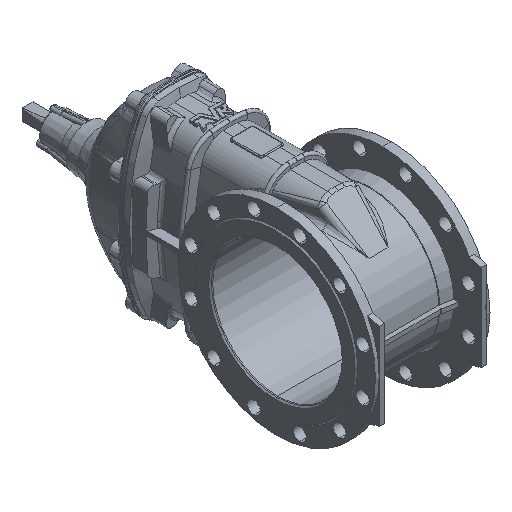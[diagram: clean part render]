
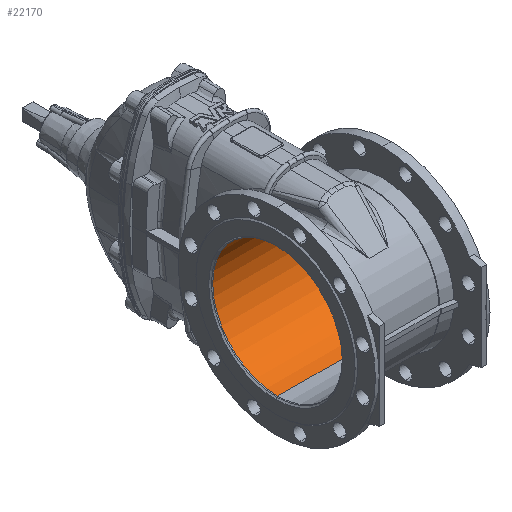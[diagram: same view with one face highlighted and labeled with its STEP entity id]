
A CAD part, isometric view. The second image highlights one B-rep face of the part: STEP entity #22170.
In plain terms, the highlighted cylindrical face has radius 150 mm (diameter 300 mm), a partial arc.
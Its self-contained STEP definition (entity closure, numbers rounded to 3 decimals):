
#55 = CARTESIAN_POINT ( 'NONE',  ( -129.757, 0., -150. ) ) ;
#976 = VERTEX_POINT ( 'NONE', #7720 ) ;
#1402 = CARTESIAN_POINT ( 'NONE',  ( 129.757, 0., 0. ) ) ;
#1759 = DIRECTION ( 'NONE',  ( 0., 0., 1. ) ) ;
#2216 = DIRECTION ( 'NONE',  ( -1., 0., 0. ) ) ;
#2842 = EDGE_LOOP ( 'NONE', ( #34916, #4709, #20783, #25851 ) ) ;
#3037 = EDGE_CURVE ( 'NONE', #11015, #976, #16842, .T. ) ;
#4709 = ORIENTED_EDGE ( 'NONE', *, *, #3037, .T. ) ;
#5721 = VECTOR ( 'NONE', #17099, 1000. ) ;
#7132 = CARTESIAN_POINT ( 'NONE',  ( 129.757, 0., -150. ) ) ;
#7628 = DIRECTION ( 'NONE',  ( 0., 0., 1. ) ) ;
#7720 = CARTESIAN_POINT ( 'NONE',  ( 129.757, 0., 150. ) ) ;
#9485 = VERTEX_POINT ( 'NONE', #55 ) ;
#9797 = CYLINDRICAL_SURFACE ( 'NONE', #35125, 150. ) ;
#10504 = CARTESIAN_POINT ( 'NONE',  ( 135., 0., 0. ) ) ;
#10837 = CARTESIAN_POINT ( 'NONE',  ( -129.757, 0., 150. ) ) ;
#11015 = VERTEX_POINT ( 'NONE', #7132 ) ;
#11556 = VERTEX_POINT ( 'NONE', #10837 ) ;
#11726 = AXIS2_PLACEMENT_3D ( 'NONE', #22596, #13959, #22251 ) ;
#13959 = DIRECTION ( 'NONE',  ( -1., 0., 0. ) ) ;
#16842 = CIRCLE ( 'NONE', #27165, 150. ) ;
#17099 = DIRECTION ( 'NONE',  ( -1., 0., 0. ) ) ;
#18494 = EDGE_CURVE ( 'NONE', #976, #11556, #22024, .T. ) ;
#18961 = CARTESIAN_POINT ( 'NONE',  ( 135., 0., 150. ) ) ;
#20338 = DIRECTION ( 'NONE',  ( 1., 0., 0. ) ) ;
#20783 = ORIENTED_EDGE ( 'NONE', *, *, #18494, .T. ) ;
#22024 = LINE ( 'NONE', #18961, #22916 ) ;
#22170 = ADVANCED_FACE ( 'NONE', ( #32327 ), #9797, .F. ) ;
#22251 = DIRECTION ( 'NONE',  ( 0., 0., 1. ) ) ;
#22596 = CARTESIAN_POINT ( 'NONE',  ( -129.757, 0., 0. ) ) ;
#22916 = VECTOR ( 'NONE', #29970, 1000. ) ;
#24852 = CARTESIAN_POINT ( 'NONE',  ( 135., 0., -150. ) ) ;
#25851 = ORIENTED_EDGE ( 'NONE', *, *, #32709, .T. ) ;
#25970 = EDGE_CURVE ( 'NONE', #11015, #9485, #33322, .T. ) ;
#27165 = AXIS2_PLACEMENT_3D ( 'NONE', #1402, #20338, #1759 ) ;
#29970 = DIRECTION ( 'NONE',  ( -1., 0., 0. ) ) ;
#31290 = CIRCLE ( 'NONE', #11726, 150. ) ;
#32327 = FACE_OUTER_BOUND ( 'NONE', #2842, .T. ) ;
#32709 = EDGE_CURVE ( 'NONE', #11556, #9485, #31290, .T. ) ;
#33322 = LINE ( 'NONE', #24852, #5721 ) ;
#34916 = ORIENTED_EDGE ( 'NONE', *, *, #25970, .F. ) ;
#35125 = AXIS2_PLACEMENT_3D ( 'NONE', #10504, #2216, #7628 ) ;
